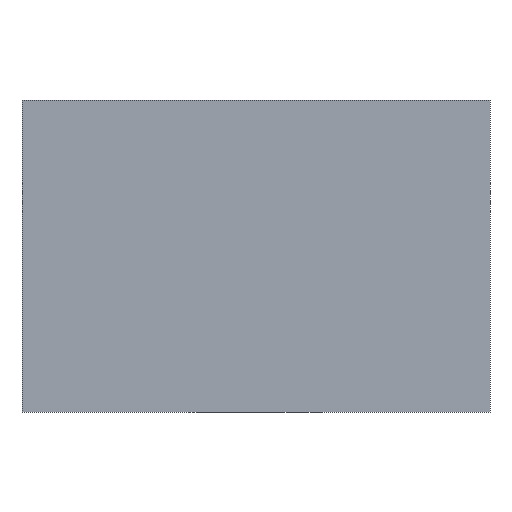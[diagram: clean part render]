
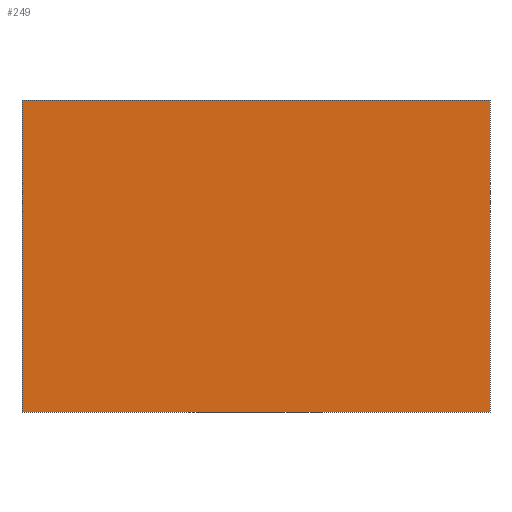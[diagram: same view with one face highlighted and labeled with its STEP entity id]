
A CAD part, front view. The second image highlights one B-rep face of the part: STEP entity #249.
In plain terms, the highlighted planar face has unit normal (0, -1, 0).
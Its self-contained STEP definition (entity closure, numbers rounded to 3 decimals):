
#21 = EDGE_CURVE('',#22,#24,#26,.T.);
#22 = VERTEX_POINT('',#23);
#23 = CARTESIAN_POINT('',(0.,0.,0.));
#24 = VERTEX_POINT('',#25);
#25 = CARTESIAN_POINT('',(0.,0.,8.));
#26 = SURFACE_CURVE('',#27,(#31,#43),.PCURVE_S1.);
#27 = LINE('',#28,#29);
#28 = CARTESIAN_POINT('',(0.,0.,0.));
#29 = VECTOR('',#30,1.);
#30 = DIRECTION('',(0.,0.,1.));
#31 = PCURVE('',#32,#37);
#32 = PLANE('',#33);
#33 = AXIS2_PLACEMENT_3D('',#34,#35,#36);
#34 = CARTESIAN_POINT('',(0.,0.,0.));
#35 = DIRECTION('',(1.,0.,0.));
#36 = DIRECTION('',(0.,0.,1.));
#37 = DEFINITIONAL_REPRESENTATION('',(#38),#42);
#38 = LINE('',#39,#40);
#39 = CARTESIAN_POINT('',(0.,0.));
#40 = VECTOR('',#41,1.);
#41 = DIRECTION('',(1.,0.));
#42 = ( GEOMETRIC_REPRESENTATION_CONTEXT(2) 
PARAMETRIC_REPRESENTATION_CONTEXT() REPRESENTATION_CONTEXT('2D SPACE',''
  ) );
#43 = PCURVE('',#44,#49);
#44 = PLANE('',#45);
#45 = AXIS2_PLACEMENT_3D('',#46,#47,#48);
#46 = CARTESIAN_POINT('',(0.,0.,0.));
#47 = DIRECTION('',(0.,1.,0.));
#48 = DIRECTION('',(0.,0.,1.));
#49 = DEFINITIONAL_REPRESENTATION('',(#50),#54);
#50 = LINE('',#51,#52);
#51 = CARTESIAN_POINT('',(0.,0.));
#52 = VECTOR('',#53,1.);
#53 = DIRECTION('',(1.,0.));
#54 = ( GEOMETRIC_REPRESENTATION_CONTEXT(2) 
PARAMETRIC_REPRESENTATION_CONTEXT() REPRESENTATION_CONTEXT('2D SPACE',''
  ) );
#72 = PLANE('',#73);
#73 = AXIS2_PLACEMENT_3D('',#74,#75,#76);
#74 = CARTESIAN_POINT('',(0.,0.,0.));
#75 = DIRECTION('',(0.,0.,1.));
#76 = DIRECTION('',(1.,0.,0.));
#238 = PLANE('',#239);
#239 = AXIS2_PLACEMENT_3D('',#240,#241,#242);
#240 = CARTESIAN_POINT('',(0.,0.,8.));
#241 = DIRECTION('',(0.,0.,1.));
#242 = DIRECTION('',(1.,0.,0.));
#249 = ADVANCED_FACE('',(#250),#44,.F.);
#250 = FACE_BOUND('',#251,.F.);
#251 = EDGE_LOOP('',(#252,#275,#276,#299));
#252 = ORIENTED_EDGE('',*,*,#253,.F.);
#253 = EDGE_CURVE('',#22,#254,#256,.T.);
#254 = VERTEX_POINT('',#255);
#255 = CARTESIAN_POINT('',(12.,0.,0.));
#256 = SURFACE_CURVE('',#257,(#261,#268),.PCURVE_S1.);
#257 = LINE('',#258,#259);
#258 = CARTESIAN_POINT('',(0.,0.,0.));
#259 = VECTOR('',#260,1.);
#260 = DIRECTION('',(1.,0.,0.));
#261 = PCURVE('',#44,#262);
#262 = DEFINITIONAL_REPRESENTATION('',(#263),#267);
#263 = LINE('',#264,#265);
#264 = CARTESIAN_POINT('',(0.,0.));
#265 = VECTOR('',#266,1.);
#266 = DIRECTION('',(0.,1.));
#267 = ( GEOMETRIC_REPRESENTATION_CONTEXT(2) 
PARAMETRIC_REPRESENTATION_CONTEXT() REPRESENTATION_CONTEXT('2D SPACE',''
  ) );
#268 = PCURVE('',#72,#269);
#269 = DEFINITIONAL_REPRESENTATION('',(#270),#274);
#270 = LINE('',#271,#272);
#271 = CARTESIAN_POINT('',(0.,0.));
#272 = VECTOR('',#273,1.);
#273 = DIRECTION('',(1.,0.));
#274 = ( GEOMETRIC_REPRESENTATION_CONTEXT(2) 
PARAMETRIC_REPRESENTATION_CONTEXT() REPRESENTATION_CONTEXT('2D SPACE',''
  ) );
#275 = ORIENTED_EDGE('',*,*,#21,.T.);
#276 = ORIENTED_EDGE('',*,*,#277,.T.);
#277 = EDGE_CURVE('',#24,#278,#280,.T.);
#278 = VERTEX_POINT('',#279);
#279 = CARTESIAN_POINT('',(12.,0.,8.));
#280 = SURFACE_CURVE('',#281,(#285,#292),.PCURVE_S1.);
#281 = LINE('',#282,#283);
#282 = CARTESIAN_POINT('',(0.,0.,8.));
#283 = VECTOR('',#284,1.);
#284 = DIRECTION('',(1.,0.,0.));
#285 = PCURVE('',#44,#286);
#286 = DEFINITIONAL_REPRESENTATION('',(#287),#291);
#287 = LINE('',#288,#289);
#288 = CARTESIAN_POINT('',(8.,0.));
#289 = VECTOR('',#290,1.);
#290 = DIRECTION('',(0.,1.));
#291 = ( GEOMETRIC_REPRESENTATION_CONTEXT(2) 
PARAMETRIC_REPRESENTATION_CONTEXT() REPRESENTATION_CONTEXT('2D SPACE',''
  ) );
#292 = PCURVE('',#238,#293);
#293 = DEFINITIONAL_REPRESENTATION('',(#294),#298);
#294 = LINE('',#295,#296);
#295 = CARTESIAN_POINT('',(0.,0.));
#296 = VECTOR('',#297,1.);
#297 = DIRECTION('',(1.,0.));
#298 = ( GEOMETRIC_REPRESENTATION_CONTEXT(2) 
PARAMETRIC_REPRESENTATION_CONTEXT() REPRESENTATION_CONTEXT('2D SPACE',''
  ) );
#299 = ORIENTED_EDGE('',*,*,#300,.F.);
#300 = EDGE_CURVE('',#254,#278,#301,.T.);
#301 = SURFACE_CURVE('',#302,(#306,#313),.PCURVE_S1.);
#302 = LINE('',#303,#304);
#303 = CARTESIAN_POINT('',(12.,0.,0.));
#304 = VECTOR('',#305,1.);
#305 = DIRECTION('',(0.,0.,1.));
#306 = PCURVE('',#44,#307);
#307 = DEFINITIONAL_REPRESENTATION('',(#308),#312);
#308 = LINE('',#309,#310);
#309 = CARTESIAN_POINT('',(0.,12.));
#310 = VECTOR('',#311,1.);
#311 = DIRECTION('',(1.,0.));
#312 = ( GEOMETRIC_REPRESENTATION_CONTEXT(2) 
PARAMETRIC_REPRESENTATION_CONTEXT() REPRESENTATION_CONTEXT('2D SPACE',''
  ) );
#313 = PCURVE('',#314,#319);
#314 = PLANE('',#315);
#315 = AXIS2_PLACEMENT_3D('',#316,#317,#318);
#316 = CARTESIAN_POINT('',(12.,0.,0.));
#317 = DIRECTION('',(1.,0.,0.));
#318 = DIRECTION('',(0.,0.,1.));
#319 = DEFINITIONAL_REPRESENTATION('',(#320),#324);
#320 = LINE('',#321,#322);
#321 = CARTESIAN_POINT('',(0.,0.));
#322 = VECTOR('',#323,1.);
#323 = DIRECTION('',(1.,0.));
#324 = ( GEOMETRIC_REPRESENTATION_CONTEXT(2) 
PARAMETRIC_REPRESENTATION_CONTEXT() REPRESENTATION_CONTEXT('2D SPACE',''
  ) );
